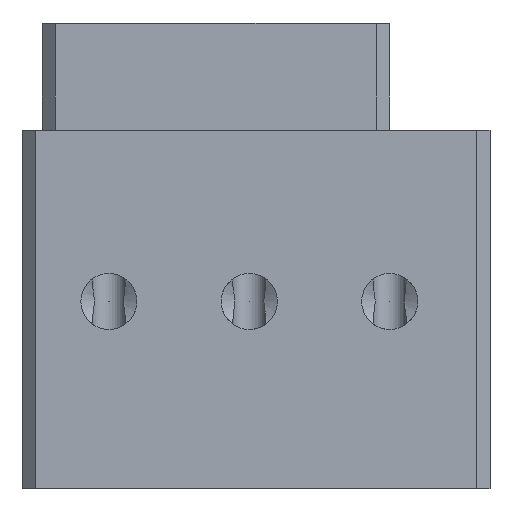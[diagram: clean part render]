
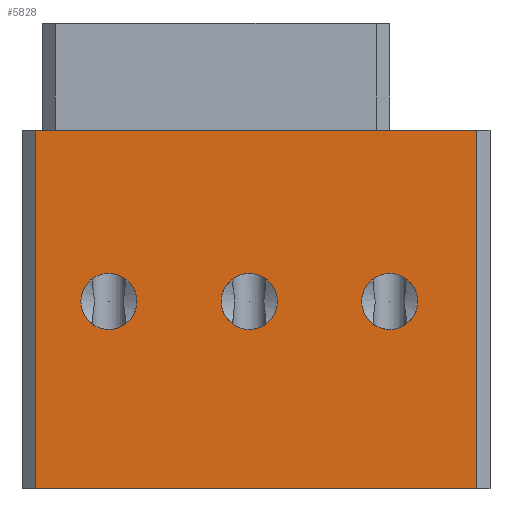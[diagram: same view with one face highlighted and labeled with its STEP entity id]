
A CAD part, left-side view. The second image highlights one B-rep face of the part: STEP entity #5828.
In plain terms, the highlighted planar face has unit normal (-1, 0, 0).
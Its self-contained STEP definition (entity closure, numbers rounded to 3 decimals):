
#284=FACE_BOUND('',#1192,.T.);
#285=FACE_BOUND('',#1193,.T.);
#286=FACE_BOUND('',#1194,.T.);
#472=PLANE('',#6348);
#713=FACE_OUTER_BOUND('',#1191,.T.);
#1191=EDGE_LOOP('',(#4091,#4092,#4093,#4094));
#1192=EDGE_LOOP('',(#4095));
#1193=EDGE_LOOP('',(#4096));
#1194=EDGE_LOOP('',(#4097));
#1672=LINE('',#8593,#1985);
#1687=LINE('',#8709,#2000);
#1688=LINE('',#8724,#2001);
#1691=LINE('',#8729,#2004);
#1985=VECTOR('',#6889,10.);
#2000=VECTOR('',#6974,10.);
#2001=VECTOR('',#6991,10.);
#2004=VECTOR('',#6998,10.);
#2358=CIRCLE('',#6310,2.1);
#2359=CIRCLE('',#6313,2.1);
#2360=CIRCLE('',#6316,2.1);
#2597=VERTEX_POINT('',#8590);
#2598=VERTEX_POINT('',#8592);
#2624=VERTEX_POINT('',#8694);
#2630=VERTEX_POINT('',#8707);
#2694=VERTEX_POINT('',#9494);
#2695=VERTEX_POINT('',#9498);
#2696=VERTEX_POINT('',#9502);
#3128=EDGE_CURVE('',#2598,#2597,#1672,.T.);
#3164=EDGE_CURVE('',#2624,#2630,#1687,.T.);
#3171=EDGE_CURVE('',#2624,#2597,#1688,.T.);
#3174=EDGE_CURVE('',#2598,#2630,#1691,.T.);
#3247=EDGE_CURVE('',#2694,#2694,#2358,.T.);
#3248=EDGE_CURVE('',#2695,#2695,#2359,.T.);
#3249=EDGE_CURVE('',#2696,#2696,#2360,.T.);
#4091=ORIENTED_EDGE('',*,*,#3171,.F.);
#4092=ORIENTED_EDGE('',*,*,#3164,.T.);
#4093=ORIENTED_EDGE('',*,*,#3174,.F.);
#4094=ORIENTED_EDGE('',*,*,#3128,.T.);
#4095=ORIENTED_EDGE('',*,*,#3247,.T.);
#4096=ORIENTED_EDGE('',*,*,#3248,.T.);
#4097=ORIENTED_EDGE('',*,*,#3249,.T.);
#5828=ADVANCED_FACE('',(#713,#284,#285,#286),#472,.T.);
#6310=AXIS2_PLACEMENT_3D('',#9495,#7174,#7175);
#6313=AXIS2_PLACEMENT_3D('',#9499,#7180,#7181);
#6316=AXIS2_PLACEMENT_3D('',#9503,#7186,#7187);
#6348=AXIS2_PLACEMENT_3D('',#9548,#7252,#7253);
#6889=DIRECTION('',(0.,1.,0.));
#6974=DIRECTION('',(0.,-1.,0.));
#6991=DIRECTION('',(0.,0.,1.));
#6998=DIRECTION('',(0.,0.,-1.));
#7174=DIRECTION('center_axis',(1.,0.,0.));
#7175=DIRECTION('ref_axis',(0.,0.,-1.));
#7180=DIRECTION('center_axis',(1.,0.,0.));
#7181=DIRECTION('ref_axis',(0.,0.,-1.));
#7186=DIRECTION('center_axis',(1.,0.,0.));
#7187=DIRECTION('ref_axis',(0.,0.,-1.));
#7252=DIRECTION('center_axis',(-1.,0.,0.));
#7253=DIRECTION('ref_axis',(0.,0.,1.));
#8590=CARTESIAN_POINT('',(-27.,34.,0.));
#8592=CARTESIAN_POINT('',(-27.,1.,0.));
#8593=CARTESIAN_POINT('',(-27.,0.,0.));
#8694=CARTESIAN_POINT('',(-27.,34.,-26.8));
#8707=CARTESIAN_POINT('',(-27.,1.,-26.8));
#8709=CARTESIAN_POINT('',(-27.,0.,-26.8));
#8724=CARTESIAN_POINT('',(-27.,34.,0.));
#8729=CARTESIAN_POINT('',(-27.,1.,0.));
#9494=CARTESIAN_POINT('',(-27.,28.5,-14.9));
#9495=CARTESIAN_POINT('Origin',(-27.,28.5,-12.8));
#9498=CARTESIAN_POINT('',(-27.,18.,-14.9));
#9499=CARTESIAN_POINT('Origin',(-27.,18.,-12.8));
#9502=CARTESIAN_POINT('',(-27.,7.5,-14.9));
#9503=CARTESIAN_POINT('Origin',(-27.,7.5,-12.8));
#9548=CARTESIAN_POINT('Origin',(-27.,35.,0.));
